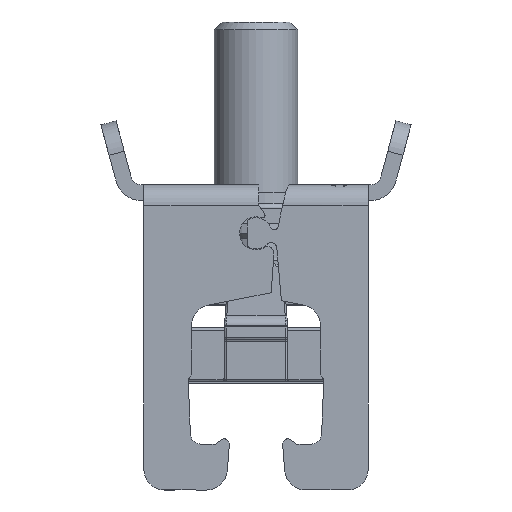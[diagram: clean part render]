
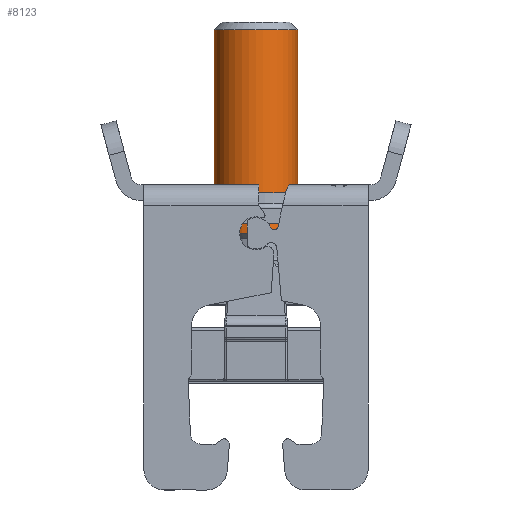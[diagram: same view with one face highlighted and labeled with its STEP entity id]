
A CAD part, left-side view. The second image highlights one B-rep face of the part: STEP entity #8123.
In plain terms, the highlighted cylindrical face has radius 8 mm (diameter 16 mm), a full revolution.
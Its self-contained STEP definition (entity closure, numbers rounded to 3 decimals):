
#3329 = DIRECTION ( 'NONE',  ( 0., 0., 1. ) ) ;
#3983 = DIRECTION ( 'NONE',  ( 1., 0., 0. ) ) ;
#5275 = ORIENTED_EDGE ( 'NONE', *, *, #14711, .T. ) ;
#5461 = CARTESIAN_POINT ( 'NONE',  ( 0., 21.5, 34.189 ) ) ;
#6990 = AXIS2_PLACEMENT_3D ( 'NONE', #41928, #3329, #36450 ) ;
#7997 = DIRECTION ( 'NONE',  ( 0., 0., -1. ) ) ;
#8123 = ADVANCED_FACE ( 'NONE', ( #30714, #31514 ), #29983, .T. ) ;
#8789 = VERTEX_POINT ( 'NONE', #13143 ) ;
#10766 = AXIS2_PLACEMENT_3D ( 'NONE', #16104, #7997, #32639 ) ;
#13143 = CARTESIAN_POINT ( 'NONE',  ( 8., 21.5, 32.689 ) ) ;
#14711 = EDGE_CURVE ( 'NONE', #24587, #24587, #34101, .T. ) ;
#16104 = CARTESIAN_POINT ( 'NONE',  ( 0., 21.5, 32.689 ) ) ;
#16202 = ORIENTED_EDGE ( 'NONE', *, *, #26594, .T. ) ;
#23603 = EDGE_LOOP ( 'NONE', ( #5275 ) ) ;
#24587 = VERTEX_POINT ( 'NONE', #28255 ) ;
#26594 = EDGE_CURVE ( 'NONE', #8789, #8789, #62061, .T. ) ;
#28255 = CARTESIAN_POINT ( 'NONE',  ( 8., 21.5, -6.311 ) ) ;
#29645 = DIRECTION ( 'NONE',  ( 0., 0., 1. ) ) ;
#29983 = CYLINDRICAL_SURFACE ( 'NONE', #47609, 8. ) ;
#30714 = FACE_OUTER_BOUND ( 'NONE', #23603, .T. ) ;
#31514 = FACE_OUTER_BOUND ( 'NONE', #48474, .T. ) ;
#32639 = DIRECTION ( 'NONE',  ( 1., 0., 0. ) ) ;
#34101 = CIRCLE ( 'NONE', #6990, 8. ) ;
#36450 = DIRECTION ( 'NONE',  ( 1., 0., 0. ) ) ;
#41928 = CARTESIAN_POINT ( 'NONE',  ( 0., 21.5, -6.311 ) ) ;
#47609 = AXIS2_PLACEMENT_3D ( 'NONE', #5461, #29645, #3983 ) ;
#48474 = EDGE_LOOP ( 'NONE', ( #16202 ) ) ;
#62061 = CIRCLE ( 'NONE', #10766, 8. ) ;
